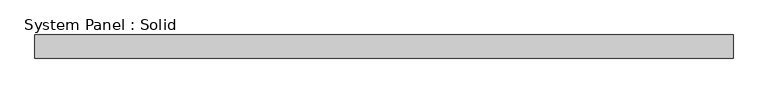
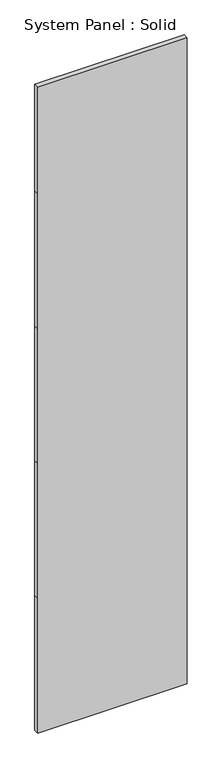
"""IFC4 building model written with IfcOpenShell, lengths in millimetres: plate geometry, System Panel : Solid."""

from ifc_helpers import new_model, si_unit, frame, origin, place, context, project, spatial, polyline, outline, extrude, source, transform, mapped, element, save


def system_panel_solid_b85fb2bd(model_context):
    return source(origin(), model_context, "Body", "SweptSolid", [
        extrude(outline(polyline([(0.0, -525.0), (0.0, 525.0), (1000.0, 525.0), (2000.0, 525.0), (3000.0, 525.0), (4000.0, 525.0), (4790.0, 525.0), (4790.0, -525.0), (4000.0, -525.0), (3000.0, -525.0), (2000.0, -525.0), (1000.0, -525.0), (0.0, -525.0)])), frame((0.0, -2.5, 0.0), z_axis=(0.0, 1.0, 0.0), x_axis=(0.0, 0.0, 1.0)), (0.0, 0.0, 1.0), 35.0),
    ])


if __name__ == "__main__":
    model = new_model("IFC4")
    model_context = context("Model", 3, world=origin())
    ifc_project = project(units=[si_unit("LENGTHUNIT", "METRE", prefix="MILLI")], contexts=[model_context])
    site = spatial("IfcSite", under=ifc_project)
    building = spatial("IfcBuilding", under=site)
    placement = place(None, origin())
    system_panel_solid_shape = system_panel_solid_b85fb2bd(model_context)
    element("IfcPlate", 1, ObjectType="System Panel : Solid", at=placement, inside=building, context=model_context, shape_type="MappedRepresentation", body=[
        mapped(system_panel_solid_shape, transform((0.0, 0.0, 0.0), x_axis=(1.0, 0.0, 0.0), y_axis=(0.0, 1.0, 0.0), z_axis=(0.0, 0.0, 1.0))),
    ])
    save(model, "model.ifc")
